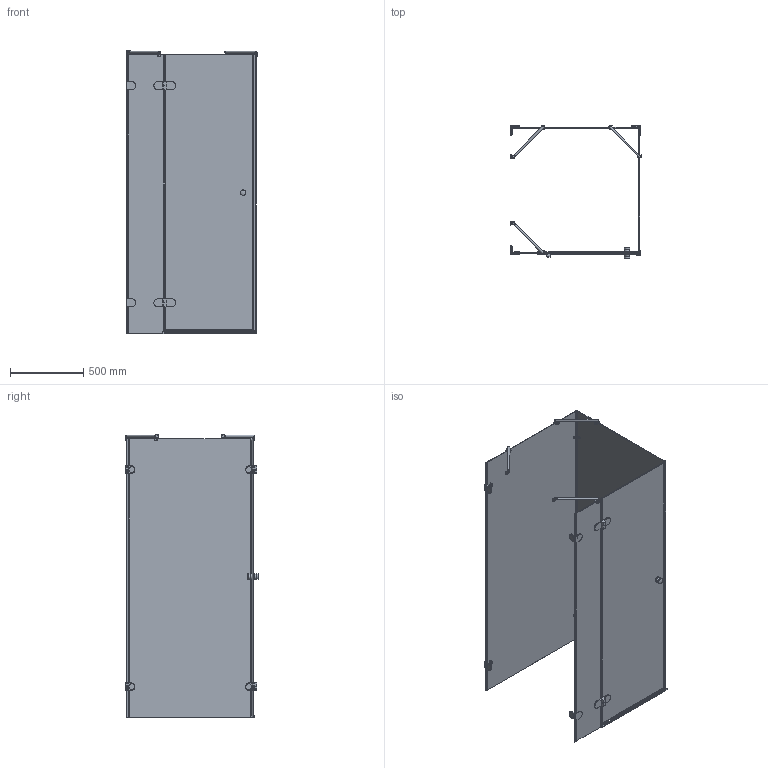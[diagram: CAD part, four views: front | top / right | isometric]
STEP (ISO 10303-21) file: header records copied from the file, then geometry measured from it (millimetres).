
FILE_DESCRIPTION(/* description */ (''),/* implementation_level */ '2;1');
FILE_NAME(/* name */ 'C:\Autodesk\LUX RECTAN GK-004C\LUX RECTAN GK-004C левая модель\LUX RECTAN GK-004C ЛЕВАЯ-3D.stp',/* time_stamp */ '2021-02-02T12:28:53+03:00',/* author */ ('ChechurovS'),/* organization */ (''),/* preprocessor_version */ 'ST-DEVELOPER v15.2',/* originating_system */ 'Autodesk Inventor 2014',/* authorisation */ '');
FILE_SCHEMA (('AUTOMOTIVE_DESIGN { 1 0 10303 214 3 1 1 }'));
Length unit declared in the file: millimetre
Products named in the file (1): LUX RECTAN GK-004C ЛЕВАЯ-3D
Bounding box: 894 x 910 x 1931.5 mm (x, y, z)
Volume: 30709524.1 mm3; surface area: 10563764.4 mm2
Topology: 5 solids, 5 shells, 838 faces, 2162 edges, 1374 vertices
Faces by surface type: plane 560, cylinder 215, torus 23, sphere 16, bspline 16, cone 8
Full cylindrical faces by diameter (mm): 8 x4, 11 x4, 12 x4, 15 x3, 18 x4, 20 x6, 26 x2, 30 x4, 35 x4, 38 x4, 40 x4
Entity records: 27059 total; most frequent: CARTESIAN_POINT 6071, DIRECTION 4144, ORIENTED_EDGE 4086, EDGE_CURVE 2043, LINE 1426, VECTOR 1426, AXIS2_PLACEMENT_3D 1359, VERTEX_POINT 1330
